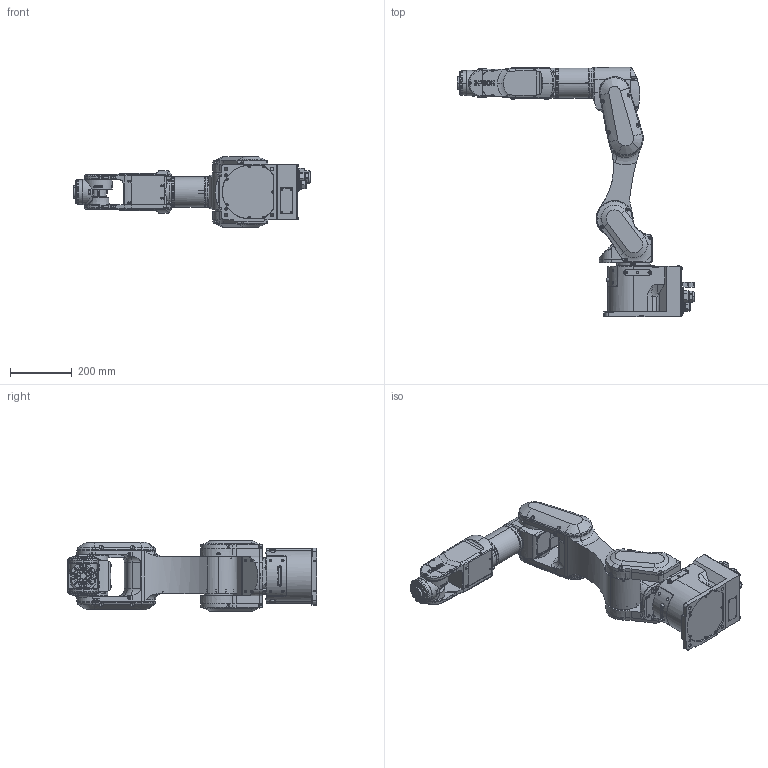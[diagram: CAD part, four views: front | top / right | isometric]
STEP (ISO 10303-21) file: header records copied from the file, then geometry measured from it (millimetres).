
FILE_DESCRIPTION (( 'STEP AP214' ), '1' );
FILE_NAME ('CX7-x901SN.STEP', '2026-07-27T17:21:32', ( '' ), ( '' ), 'SwSTEP 2.0', 'SolidWorks 2020', '' );
FILE_SCHEMA (( 'AUTOMOTIVE_DESIGN' ));
Length unit declared in the file: millimetre
Products named in the file (8): CX7-A901S-NIW_J2; CX7-A901S-NIW_J1; CX7-A901S-NIW_J5; CX7-x901SN; CX7-A901S-NIW_J3; CX7-A901S-NIW_BASE; CX7-A901S-NIW_J4; CX7-A901S-NIW_J6
Assembly tree (7 placements, depth 2):
  CX7-x901SN
    CX7-A901S-NIW_BASE
    CX7-A901S-NIW_J1
    CX7-A901S-NIW_J2
    CX7-A901S-NIW_J3
    CX7-A901S-NIW_J4
    CX7-A901S-NIW_J5
    CX7-A901S-NIW_J6
Bounding box: 772 x 812 x 228 mm (x, y, z)
Volume: 8767022.2 mm3; surface area: 1181401.4 mm2
Topology: 4 solids, 9 shells, 3538 faces, 8785 edges, 5423 vertices
Faces by surface type: plane 1190, cylinder 1159, cone 722, torus 353, sphere 69, bspline 45
Entity records: 160201 total; most frequent: CARTESIAN_POINT 69556, ORIENTED_EDGE 17252, DIRECTION 11996, EDGE_CURVE 8635, VERTEX_POINT 5423, B_SPLINE_CURVE_WITH_KNOTS 5381, AXIS2_PLACEMENT_3D 5259, EDGE_LOOP 3872
